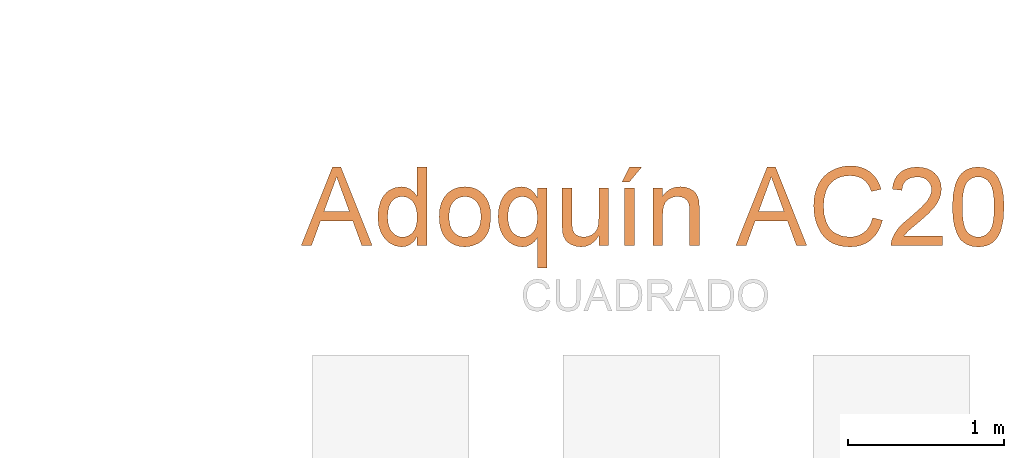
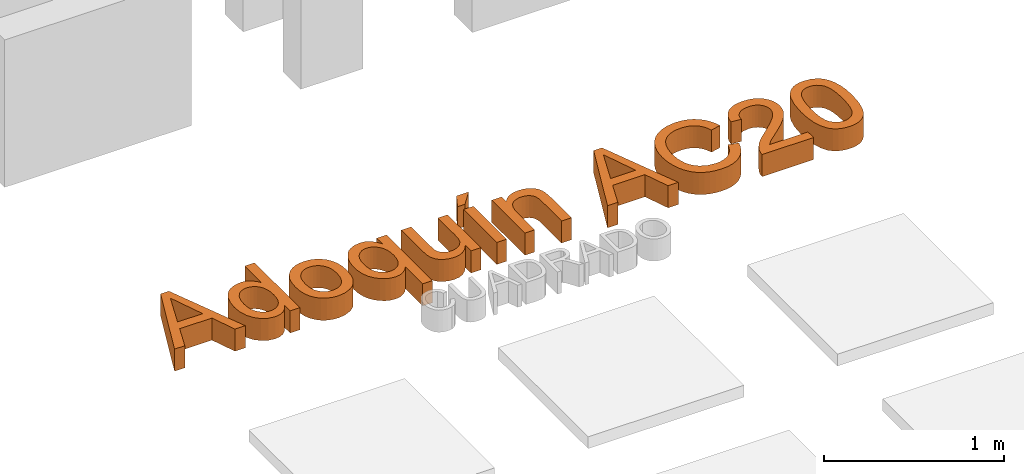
# One storey, part 12 of 19: 1 proxy.
"""IFC2X3 building model written with IfcOpenShell, lengths in metres."""

import ifcopenshell
import ifcopenshell.guid

model = None  # the IFC model being written
_history = None  # IfcOwnerHistory: only IFC2X3 demands one
_inside = {}  # id of a spatial element -> (the spatial element, [elements in it])
_under = {}  # id of a project, library or spatial element -> (it, [spatial elements below it])
_declared = {}  # id of a project -> (the project, [libraries it declares])
_typed = {}  # id of a type object -> (the type object, [elements of that type])
_made_of = {}  # id of a material, layer set ... -> (it, [elements and type objects made of it])


def new_model(schema):
    """Start an empty IFC model of exactly this schema.

    Asked for "IFC4X3", IfcOpenShell would pick the latest addendum, in which some entities
    have other attributes; the version numbers below select the first issue.
    IFC2X3 requires an IfcOwnerHistory on every rooted entity: one is made here for all.
    """
    global model, _history
    if schema == "IFC4X3":
        model = ifcopenshell.file(schema_version=(4, 3, 0, 0))
    else:
        model = ifcopenshell.file(schema=schema)
    _inside.clear()
    _under.clear()
    _declared.clear()
    _typed.clear()
    _made_of.clear()
    _history = None
    if model.schema == "IFC2X3":
        org = make("IfcOrganization", Name="unknown")
        user = make(
            "IfcPersonAndOrganization",
            ThePerson=make("IfcPerson", FamilyName="unknown"),
            TheOrganization=org,
        )
        app = make(
            "IfcApplication",
            ApplicationDeveloper=org,
            Version="unknown",
            ApplicationFullName="unknown",
            ApplicationIdentifier="unknown",
        )
        _history = make(
            "IfcOwnerHistory",
            OwningUser=user,
            OwningApplication=app,
            ChangeAction="ADDED",
            CreationDate=0,
        )
    return model


def make(cls, **values):
    """One entity of the class cls with the attributes given. An attribute that is None is left unset."""
    return model.create_entity(
        cls, **{name: value for name, value in values.items() if value is not None}
    )


def entity(cls, *values):
    """Any entity or typed value of the class cls, its attributes in the order of the schema. None: left unset."""
    e = model.create_entity(cls)
    for i, value in enumerate(values):
        if value is not None:
            e[i] = value
    return e


def rooted(cls, **values):
    """An entity with a GlobalId (a new one), such as an element, a storey or a relation."""
    return make(cls, GlobalId=ifcopenshell.guid.new(), OwnerHistory=_history, **values)


def si_unit(unit_type, name, prefix=None):
    """IfcSIUnit, for example si_unit("LENGTHUNIT", "METRE", prefix="MILLI")."""
    return make("IfcSIUnit", UnitType=unit_type, Prefix=prefix, Name=name)


def converted_unit(unit_type, name, factor, base, dimensions=None, offset=None):
    """IfcConversionBasedUnit, such as the inch: factor (a typed value) times the base unit."""
    return make(
        "IfcConversionBasedUnit"
        if offset is None
        else "IfcConversionBasedUnitWithOffset",
        ConversionOffset=offset,
        Dimensions=None
        if dimensions is None
        else entity("IfcDimensionalExponents", *dimensions),
        UnitType=unit_type,
        Name=name,
        ConversionFactor=make(
            "IfcMeasureWithUnit", ValueComponent=factor, UnitComponent=base
        ),
    )


def derived_unit(unit_type, elements):
    """IfcDerivedUnit: a product of units, each with its exponent."""
    return make(
        "IfcDerivedUnit",
        Elements=[
            make("IfcDerivedUnitElement", Unit=unit, Exponent=power)
            for unit, power in elements
        ],
        UnitType=unit_type,
    )


def assignment(units):
    """IfcUnitAssignment: the units of a project."""
    return None if units is None else make("IfcUnitAssignment", Units=units)


def point(xyz):
    """IfcCartesianPoint."""
    return None if xyz is None else make("IfcCartesianPoint", Coordinates=xyz)


def direction(xyz):
    """IfcDirection."""
    return None if xyz is None else make("IfcDirection", DirectionRatios=xyz)


def frame(location, z_axis=None, x_axis=None):
    """IfcAxis2Placement3D, a coordinate frame: its origin and axes. An axis left out is left unset."""
    return make(
        "IfcAxis2Placement3D",
        Location=point(location),
        Axis=direction(z_axis),
        RefDirection=direction(x_axis),
    )


def frame_2d(location, x_axis=None):
    """IfcAxis2Placement2D, a coordinate frame in the plane: its origin and x axis."""
    return make(
        "IfcAxis2Placement2D", Location=point(location), RefDirection=direction(x_axis)
    )


def origin():
    """The frame at (0, 0, 0) with its axes left unset."""
    return frame((0.0, 0.0, 0.0))


def origin_2d_with_axis():
    """The frame at (0, 0) in the plane with the x axis (1, 0) written out."""
    return frame_2d((0.0, 0.0), x_axis=(1.0, 0.0))


def place(relative_to, where):
    """IfcLocalPlacement: puts the frame where relative to a parent placement (None: the world)."""
    return make(
        "IfcLocalPlacement", PlacementRelTo=relative_to, RelativePlacement=where
    )


def context(
    kind, dimensions, precision=None, world=None, true_north=None, identifier=None
):
    """IfcGeometricRepresentationContext, for example the 3D "Model" context."""
    return make(
        "IfcGeometricRepresentationContext",
        ContextIdentifier=identifier,
        ContextType=kind,
        CoordinateSpaceDimension=dimensions,
        Precision=precision,
        WorldCoordinateSystem=world,
        TrueNorth=true_north,
    )


def subcontext(parent, identifier, kind, view, scale=None):
    """IfcGeometricRepresentationSubContext, for example "Body" below "Model"."""
    return make(
        "IfcGeometricRepresentationSubContext",
        ContextIdentifier=identifier,
        ContextType=kind,
        ParentContext=parent,
        TargetScale=scale,
        TargetView=view,
    )


def project(units=None, contexts=None):
    """IfcProject with its units and contexts."""
    return rooted(
        "IfcProject",
        Name="project",
        RepresentationContexts=contexts,
        UnitsInContext=assignment(units),
    )


def spatial(cls, under=None, at=None, **own):
    """A site, building, storey or space (cls), placed at a placement, below another one or the project."""
    s = rooted(cls, ObjectPlacement=at, **own)
    if under is not None:
        _under.setdefault(under.id(), (under, []))[1].append(s)
    return s


def polyline(points):
    """IfcPolyline through the points."""
    return make("IfcPolyline", Points=[point(p) for p in points])


def profile(cls, at=None, kind="AREA", **sizes):
    """A parametric profile (cls). Its sizes go by their IFC names, for example OverallWidth=200.0."""
    return make(cls, ProfileType=kind, Position=at, **sizes)


def rectangle(**sizes):
    """IfcRectangleProfileDef."""
    return profile("IfcRectangleProfileDef", **sizes)


def outline(outer, holes=None, kind="AREA"):
    """IfcArbitraryClosedProfileDef: a profile drawn as a closed curve; with holes, ...WithVoids."""
    if holes is None:
        return make("IfcArbitraryClosedProfileDef", ProfileType=kind, OuterCurve=outer)
    return make(
        "IfcArbitraryProfileDefWithVoids",
        ProfileType=kind,
        OuterCurve=outer,
        InnerCurves=holes,
    )


def extrude(swept, where, along, depth):
    """IfcExtrudedAreaSolid: the profile swept, set in the frame where, extruded along a direction by depth."""
    return make(
        "IfcExtrudedAreaSolid",
        SweptArea=swept,
        Position=where,
        ExtrudedDirection=direction(along),
        Depth=depth,
    )


def shape(context_of_items, identifier, shape_type, items):
    """IfcShapeRepresentation: the items that make up one representation, for example the "Body"."""
    return make(
        "IfcShapeRepresentation",
        ContextOfItems=context_of_items,
        RepresentationIdentifier=identifier,
        RepresentationType=shape_type,
        Items=items,
    )


def made_of(thing, what):
    """Note that an element or type object is made of a material, layer set ...; save() writes the relation."""
    if what is not None:
        _made_of.setdefault(what.id(), (what, []))[1].append(thing)
    return thing


def type_object(cls, material=None, **own):
    """A type object (cls), such as IfcWallType, which elements share."""
    return made_of(rooted(cls, **own), material)


def element(
    cls,
    number,
    at=None,
    inside=None,
    cuts=None,
    type_object=None,
    material=None,
    context=None,
    identifier="Body",
    shape_type=None,
    held_by="IfcProductDefinitionShape",
    body=None,
    shapes=None,
    **own,
):
    """One element of the class cls, such as IfcWall. Its Tag is "e" and its number.

    at: its placement. inside: the storey or other place that contains it. cuts: it is an
    opening in that element (IfcRelVoidsElement). A single representation is given by context,
    identifier, shape_type and body (its items); several are given by shapes. held_by: the class
    of the entity that holds the representations. save() writes the other relations.
    """
    e = rooted(cls, Tag="e%d" % number, ObjectPlacement=at, **own)
    if body is not None:
        shapes = [shape(context, identifier, shape_type, body)]
    if shapes is not None:
        e.Representation = make(held_by, Representations=shapes)
    if inside is not None:
        _inside.setdefault(inside.id(), (inside, []))[1].append(e)
    if cuts is not None:
        rooted(
            "IfcRelVoidsElement", RelatingBuildingElement=cuts, RelatedOpeningElement=e
        )
    if type_object is not None:
        _typed.setdefault(type_object.id(), (type_object, []))[1].append(e)
    return made_of(e, material)


def aggregate(whole, parts):
    """IfcRelAggregates: a whole, such as a stair, and the parts it consists of."""
    return rooted("IfcRelAggregates", RelatingObject=whole, RelatedObjects=parts)


def save(model, path):
    """Write the relations noted so far, then the file.

    IfcRelAggregates (storeys below a building ...), IfcRelContainedInSpatialStructure (elements
    in a storey), IfcRelDefinesByType, IfcRelAssociatesMaterial and IfcRelDeclares: one each for
    every whole, place, type object, material and project.
    """
    for whole, parts in _under.values():
        aggregate(whole, parts)
    for where, things in _inside.values():
        rooted(
            "IfcRelContainedInSpatialStructure",
            RelatedElements=things,
            RelatingStructure=where,
        )
    for kind, things in _typed.values():
        rooted("IfcRelDefinesByType", RelatedObjects=things, RelatingType=kind)
    for what, things in _made_of.values():
        rooted("IfcRelAssociatesMaterial", RelatedObjects=things, RelatingMaterial=what)
    for by, libraries in _declared.values():
        rooted("IfcRelDeclares", RelatingContext=by, RelatedDefinitions=libraries)
    model.write(path)


model = new_model("IFC2X3")

# Units and contexts
model_context = context("Model", 3, precision=1e-05, world=origin(), true_north=direction((6.12303176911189e-17, 1.0)))
body_context = subcontext(model_context, "Body", "Model", "MODEL_VIEW")
ifc_project = project(units=[si_unit("LENGTHUNIT", "METRE"), si_unit("AREAUNIT", "SQUARE_METRE"), si_unit("VOLUMEUNIT", "CUBIC_METRE"), converted_unit("PLANEANGLEUNIT", "DEGREE", entity("IfcRatioMeasure", 0.0174532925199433), si_unit("PLANEANGLEUNIT", "RADIAN"), dimensions=[0, 0, 0, 0, 0, 0, 0]), si_unit("MASSUNIT", "GRAM", prefix="KILO"), derived_unit("MASSDENSITYUNIT", [(si_unit("MASSUNIT", "GRAM", prefix="KILO"), 1), (si_unit("LENGTHUNIT", "METRE"), -3)]), derived_unit("MOMENTOFINERTIAUNIT", [(si_unit("LENGTHUNIT", "METRE"), 4)]), si_unit("TIMEUNIT", "SECOND"), si_unit("FREQUENCYUNIT", "HERTZ"), si_unit("THERMODYNAMICTEMPERATUREUNIT", "DEGREE_CELSIUS"), derived_unit("THERMALTRANSMITTANCEUNIT", [(si_unit("MASSUNIT", "GRAM", prefix="KILO"), 1), (si_unit("THERMODYNAMICTEMPERATUREUNIT", "KELVIN"), -1), (si_unit("TIMEUNIT", "SECOND"), -3)]), derived_unit("VOLUMETRICFLOWRATEUNIT", [(si_unit("LENGTHUNIT", "METRE"), 3), (si_unit("TIMEUNIT", "SECOND"), -1)]), si_unit("ELECTRICCURRENTUNIT", "AMPERE"), si_unit("ELECTRICVOLTAGEUNIT", "VOLT"), si_unit("POWERUNIT", "WATT"), si_unit("FORCEUNIT", "NEWTON", prefix="KILO"), si_unit("ILLUMINANCEUNIT", "LUX"), si_unit("LUMINOUSFLUXUNIT", "LUMEN"), si_unit("LUMINOUSINTENSITYUNIT", "CANDELA"), derived_unit("USERDEFINED", [(si_unit("MASSUNIT", "GRAM", prefix="KILO"), -1), (si_unit("LENGTHUNIT", "METRE"), -2), (si_unit("TIMEUNIT", "SECOND"), 3), (si_unit("LUMINOUSFLUXUNIT", "LUMEN"), 1)]), derived_unit("LINEARVELOCITYUNIT", [(si_unit("LENGTHUNIT", "METRE"), 1), (si_unit("TIMEUNIT", "SECOND"), -1)]), si_unit("PRESSUREUNIT", "PASCAL"), derived_unit("USERDEFINED", [(si_unit("LENGTHUNIT", "METRE"), -2), (si_unit("MASSUNIT", "GRAM", prefix="KILO"), 1), (si_unit("TIMEUNIT", "SECOND"), -2)]), derived_unit("LINEARFORCEUNIT", [(si_unit("MASSUNIT", "GRAM", prefix="KILO"), 1), (si_unit("LENGTHUNIT", "METRE"), 1), (si_unit("TIMEUNIT", "SECOND"), -2), (si_unit("LENGTHUNIT", "METRE"), -1)]), derived_unit("PLANARFORCEUNIT", [(si_unit("MASSUNIT", "GRAM", prefix="KILO"), 1), (si_unit("LENGTHUNIT", "METRE"), 1), (si_unit("TIMEUNIT", "SECOND"), -2), (si_unit("LENGTHUNIT", "METRE"), -2)])], contexts=[model_context])

# Site, building, storey
site_placement = place(None, origin())
site = spatial("IfcSite", under=ifc_project, at=site_placement, Name="Default", CompositionType="ELEMENT")
building_placement = place(site_placement, origin())
building = spatial("IfcBuilding", under=site, at=building_placement, CompositionType="ELEMENT")
storey_placement = place(building_placement, origin())
storey = spatial("IfcBuildingStorey", under=building, at=storey_placement, Name="Nivel 1", CompositionType="ELEMENT", Elevation=0.0)

# Proxy
building_element_proxy_type = type_object("IfcBuildingElementProxyType", Name="Texto de modelo:Título", PredefinedType="NOTDEFINED")
proxy_placement = place(storey_placement, origin())
element("IfcBuildingElementProxy", 1, at=proxy_placement, inside=storey, type_object=building_element_proxy_type, Name="Texto de modelo:Título", ObjectType="Texto de modelo:Título", context=body_context, shape_type="SweptSolid", body=[
    extrude(outline(polyline([(-0.227151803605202, -0.164811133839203), (-0.16093304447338, -0.164811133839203), (-0.1035434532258, -0.00784814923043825), (0.103451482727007, -0.00784814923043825), (0.160841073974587, -0.164811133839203), (0.227182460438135, -0.164811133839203), (0.026809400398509, 0.337470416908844), (-0.0266561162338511, 0.337470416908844), (-0.227151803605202, -0.164811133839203)]), holes=[polyline([(-0.0804895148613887, 0.0549370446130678), (-0.0313159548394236, 0.189213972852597), (-4.59852493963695e-05, 0.274685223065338), (0.0351480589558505, 0.178422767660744), (0.0805201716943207, 0.0549370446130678), (-0.0804895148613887, 0.0549370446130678)])]), frame((7.10570008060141, 3.07833883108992, 0.0)), (0.0, 0.0, 1.0), 0.15),
    extrude(outline(polyline([(0.111602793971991, -0.204691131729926), (0.174387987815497, -0.204691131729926), (0.174387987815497, 0.297590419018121), (0.111602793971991, 0.297590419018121), (0.111602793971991, 0.110461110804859), (0.0933006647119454, 0.135247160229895), (0.0702773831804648, 0.154913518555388), (0.0431154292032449, 0.167743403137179), (0.0123972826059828, 0.172020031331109), (-0.0297711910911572, 0.166041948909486), (-0.0677396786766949, 0.148107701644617), (-0.0845549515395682, 0.134840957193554), (-0.099132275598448, 0.118953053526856), (-0.111471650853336, 0.100443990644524), (-0.121573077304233, 0.0793137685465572), (-0.135046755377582, 0.0318876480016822), (-0.139537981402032, -0.0206275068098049), (-0.13466354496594, -0.073801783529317), (-0.120040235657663, -0.120507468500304), (-0.0965571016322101, -0.159181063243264), (-0.0651031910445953, -0.188259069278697), (-0.0279471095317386, -0.206469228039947), (0.0126425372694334, -0.212539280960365), (0.0433376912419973, -0.208346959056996), (0.0700627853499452, -0.195769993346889), (0.0928178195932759, -0.174808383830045), (0.111602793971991, -0.145462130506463), (0.111602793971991, -0.204691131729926)]), holes=[polyline([(-0.0767527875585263, -0.0203822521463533), (-0.075097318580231, 0.0109681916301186), (-0.0701309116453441, 0.0378197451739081), (-0.0618535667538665, 0.0601724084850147), (-0.0502652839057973, 0.0780261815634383), (-0.036201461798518, 0.0916799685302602), (-0.0204974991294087, 0.101432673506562), (-0.00315339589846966, 0.107284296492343), (0.0158308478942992, 0.109234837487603), (0.0352634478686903, 0.107203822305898), (0.0530942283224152, 0.101110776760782), (0.069323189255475, 0.090955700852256), (0.0839503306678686, 0.0767385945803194), (0.0960482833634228, 0.0581835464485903), (0.10468967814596, 0.0350146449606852), (0.109874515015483, 0.00723189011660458), (0.111602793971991, -0.0251647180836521), (0.109905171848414, -0.0547140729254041), (0.104812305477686, -0.0802090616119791), (0.0963241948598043, -0.101649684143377), (0.0844408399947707, -0.119035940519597), (0.0701279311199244, -0.132475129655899), (0.0543511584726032, -0.142074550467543), (0.0371105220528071, -0.14783420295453), (0.0184060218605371, -0.149754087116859), (-0.000210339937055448, -0.147742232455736), (-0.0175544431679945, -0.141706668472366), (-0.0336262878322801, -0.131647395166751), (-0.0484258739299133, -0.117564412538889), (-0.060818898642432, -0.0994193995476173), (-0.0696710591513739, -0.0771740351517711), (-0.0749823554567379, -0.0508283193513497), (-0.0767527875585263, -0.0203822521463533)])]), frame((7.50810507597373, 3.11821882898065, 0.0)), (0.0, 0.0, 1.0), 0.15),
    extrude(outline(polyline([(-0.0131957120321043, -0.170548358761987), (0.0307665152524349, -0.170548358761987), (0.0696520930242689, -0.16451238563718), (0.103461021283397, -0.152440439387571), (0.132193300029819, -0.134332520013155), (0.155411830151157, -0.111243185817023), (0.172679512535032, -0.0842269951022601), (0.183996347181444, -0.0532839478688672), (0.189362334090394, -0.0184140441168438), (0.186618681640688, 0.0261717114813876), (0.172415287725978, 0.0679068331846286), (0.161237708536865, 0.0869767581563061), (0.14763823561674, 0.103876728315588), (0.131616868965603, 0.118606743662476), (0.113173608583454, 0.13116680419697), (0.0915479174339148, 0.141494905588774), (0.0659792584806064, 0.149529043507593), (0.0030130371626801, 0.158715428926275), (-0.0385534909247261, 0.158529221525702), (-0.075758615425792, 0.15229201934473), (-0.108602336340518, 0.140003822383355), (-0.137084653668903, 0.121664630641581), (-0.160392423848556, 0.0984428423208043), (-0.177712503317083, 0.0715068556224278), (-0.189044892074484, 0.0408566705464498), (-0.194389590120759, 0.0064922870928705), (-0.1938749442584, -0.0249843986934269), (-0.18810582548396, -0.0543136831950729), (-0.177082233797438, -0.0814955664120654), (-0.160804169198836, -0.106530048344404), (-0.134450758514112, -0.132057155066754), (-0.101064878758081, -0.151235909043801), (-0.0606465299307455, -0.164066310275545), (-0.0131957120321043, -0.170548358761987)]), holes=[polyline([(-0.00925174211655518, -0.107887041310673), (-0.0395162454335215, -0.10410257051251), (-0.0654537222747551, -0.0969584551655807), (-0.0870641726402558, -0.0864546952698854), (-0.104347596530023, -0.0725912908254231), (-0.117399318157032, -0.0562452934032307), (-0.126314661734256, -0.0382937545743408), (-0.131093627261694, -0.0187366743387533), (-0.131736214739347, 0.0024259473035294), (-0.128372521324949, 0.0230712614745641), (-0.121092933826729, 0.0416882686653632), (-0.109897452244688, 0.0582769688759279), (-0.0947860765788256, 0.072837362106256), (-0.0759345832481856, 0.0844361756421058), (-0.0535187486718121, 0.0921401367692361), (-0.0275385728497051, 0.0959492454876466), (0.00200594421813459, 0.0958635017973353), (0.0329855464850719, 0.0920326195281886), (0.0594775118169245, 0.08485251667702), (0.0814818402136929, 0.0743231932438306), (0.0989985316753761, 0.0604446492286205), (0.112185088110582, 0.0441052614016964), (0.121199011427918, 0.0261934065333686), (0.126040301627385, 0.00670908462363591), (0.126708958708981, -0.0143477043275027), (0.123328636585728, -0.0352492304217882), (0.116038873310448, -0.0540230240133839), (0.104839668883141, -0.0706690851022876), (0.0897310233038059, -0.0851874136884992), (0.0707470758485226, -0.0966969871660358), (0.0479219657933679, -0.10431678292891), (0.0212556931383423, -0.108046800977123), (-0.00925174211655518, -0.107887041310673)])]), frame((7.93201947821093, 3.09583691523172, 0.0), z_axis=(0.0, 0.0, 1.0), x_axis=(0.0647659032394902, -0.997900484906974, 0.0)), (0.0, 0.0, 1.0), 0.15),
    extrude(outline(polyline([(0.113122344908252, -0.311998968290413), (0.175907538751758, -0.311998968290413), (0.175907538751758, 0.198130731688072), (0.113122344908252, 0.198130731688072), (0.113122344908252, 0.135590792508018), (0.0926742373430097, 0.166385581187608), (0.0687312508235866, 0.188381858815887), (0.0412933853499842, 0.201579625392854), (0.0103606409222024, 0.20597888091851), (-0.0296465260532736, 0.200307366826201), (-0.066281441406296, 0.183292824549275), (-0.0827211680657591, 0.170616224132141), (-0.097091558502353, 0.155272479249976), (-0.119624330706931, 0.11658355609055), (-0.133419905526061, 0.0697092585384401), (-0.138018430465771, 0.0171327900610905), (-0.135121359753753, -0.025997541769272), (-0.126430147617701, -0.0642764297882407), (-0.111944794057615, -0.097703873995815), (-0.0916652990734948, -0.126279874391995), (-0.0673774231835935, -0.149161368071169), (-0.0408669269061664, -0.165505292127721), (-0.0121338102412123, -0.175311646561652), (0.0188219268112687, -0.178580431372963), (0.0468422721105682, -0.174441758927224), (0.0732684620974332, -0.162025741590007), (0.0960464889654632, -0.143355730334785), (0.113122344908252, -0.12045507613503), (0.113122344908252, -0.311998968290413)]), holes=[polyline([(-0.0752332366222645, 0.0136992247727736), (-0.0735586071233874, 0.0447967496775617), (-0.0685347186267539, 0.0715026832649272), (-0.0601615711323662, 0.0938170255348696), (-0.048439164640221, 0.111739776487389), (-0.0343101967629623, 0.125500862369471), (-0.0187173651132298, 0.1353302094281), (-0.0016606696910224, 0.141227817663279), (0.0168598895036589, 0.143193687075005), (0.0356103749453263, 0.141082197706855), (0.0531115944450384, 0.134747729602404), (0.0693635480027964, 0.124190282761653), (0.0843662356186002, 0.109409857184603), (0.0969470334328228, 0.0904447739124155), (0.10593331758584, 0.067333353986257), (0.11132508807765, 0.0400755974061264), (0.113122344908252, 0.00867150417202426), (0.111417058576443, -0.0207743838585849), (0.106301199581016, -0.0462042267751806), (0.0977747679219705, -0.0676180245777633), (0.0858377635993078, -0.085015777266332), (0.0715401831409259, -0.0984817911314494), (0.0559320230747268, -0.108100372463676), (0.0390132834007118, -0.113871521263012), (0.0207839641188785, -0.115795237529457), (0.00174223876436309, -0.113771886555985), (-0.0158969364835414, -0.107701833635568), (-0.0321335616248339, -0.0975850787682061), (-0.0469676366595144, -0.0834216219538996), (-0.0593338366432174, -0.0652114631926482), (-0.0681668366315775, -0.0429546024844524), (-0.0734666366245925, -0.0166510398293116), (-0.0752332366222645, 0.0136992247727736)])]), frame((8.27570414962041, 3.08425997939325, 0.0)), (0.0, 0.0, 1.0), 0.15),
    extrude(outline(polyline([(0.0993741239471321, -0.102697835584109), (0.162159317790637, -0.102697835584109), (0.162159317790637, 0.266165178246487), (0.0993741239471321, 0.266165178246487), (0.0993741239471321, 0.0742534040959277), (0.0968296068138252, 0.0338323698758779), (0.0891960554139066, 0.00429451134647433), (0.0754464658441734, -0.0172725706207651), (0.0545538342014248, -0.0337812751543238), (0.0292159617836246, -0.0442659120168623), (0.0021306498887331, -0.0477607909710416), (-0.0234831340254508, -0.0443425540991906), (-0.0446516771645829, -0.0340878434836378), (-0.0603326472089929, -0.0178550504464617), (-0.0694837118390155, 0.00349743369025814), (-0.0732851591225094, 0.0675089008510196), (-0.0732851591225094, 0.266165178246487), (-0.136070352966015, 0.266165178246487), (-0.136070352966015, 0.0379557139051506), (-0.132391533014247, -0.0204148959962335), (-0.125018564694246, -0.045645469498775), (-0.113690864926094, -0.0666454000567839), (-0.0968602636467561, -0.0839358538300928), (-0.0729785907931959, -0.0980379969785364), (-0.0445137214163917, -0.107418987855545), (-0.0139335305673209, -0.110545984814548), (0.020003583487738, -0.106093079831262), (0.050200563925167, -0.0927343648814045), (0.0766574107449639, -0.070469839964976), (0.0993741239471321, -0.0392995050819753), (0.0993741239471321, -0.102697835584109)])), frame((8.68185983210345, 3.01622553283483, 0.0)), (0.0, 0.0, 1.0), 0.15),
    extrude(outline(polyline([(-0.0549370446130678, -0.0470888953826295), (-0.00784814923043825, -0.0470888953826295), (0.0706333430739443, 0.0470888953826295), (-0.00784814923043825, 0.0470888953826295), (-0.0549370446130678, -0.0470888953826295)])), frame((8.98528583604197, 3.36872035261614, 0.0)), (0.0, 0.0, 1.0), 0.15),
    extrude(outline(polyline([(-0.160354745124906, -0.269066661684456), (-0.0975695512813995, -0.269066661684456), (-0.0975695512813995, -0.0733534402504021), (-0.0957799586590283, -0.0416619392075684), (-0.0904111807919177, -0.0155039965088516), (-0.0814632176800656, 0.0051203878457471), (-0.068936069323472, 0.0202112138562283), (-0.0539410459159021, 0.0309947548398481), (-0.0375894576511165, 0.0386972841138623), (-0.0198813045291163, 0.0433188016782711), (-0.000816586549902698, 0.0448593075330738), (0.0223446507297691, 0.0421155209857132), (0.0422869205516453, 0.0338841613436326), (0.0578452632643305, 0.021054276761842), (0.0678547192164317, 0.00451491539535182), (0.0732809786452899, -0.0185696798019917), (0.075089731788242, -0.0510352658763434), (0.075089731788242, -0.269066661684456), (0.137874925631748, -0.269066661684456), (0.137874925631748, -0.0425739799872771), (0.134563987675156, 0.0181265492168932), (0.127160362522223, 0.0430352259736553), (0.115740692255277, 0.0642957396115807), (0.0989100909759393, 0.0818621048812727), (0.0752736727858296, 0.0956883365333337), (0.0469314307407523, 0.104655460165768), (0.015983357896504, 0.107644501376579), (-0.0189807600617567, 0.10393502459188), (-0.0495609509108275, 0.0928065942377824), (-0.0757572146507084, 0.0742592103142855), (-0.0975695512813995, 0.0482928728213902), (-0.0975695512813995, 0.099796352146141), (-0.160354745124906, 0.099796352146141), (-0.160354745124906, -0.269066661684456)])), frame((9.28690726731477, 3.18259435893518, 0.0)), (0.0, 0.0, 1.0), 0.15),
    extrude(outline(polyline([(-0.227151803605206, -0.164811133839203), (-0.160933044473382, -0.164811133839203), (-0.103543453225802, -0.00784814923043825), (0.103451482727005, -0.00784814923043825), (0.160841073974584, -0.164811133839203), (0.227182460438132, -0.164811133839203), (0.0268094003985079, 0.337470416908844), (-0.0266561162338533, 0.337470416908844), (-0.227151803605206, -0.164811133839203)]), holes=[polyline([(-0.0804895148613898, 0.0549370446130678), (-0.0313159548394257, 0.189213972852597), (-4.59852493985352e-05, 0.274685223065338), (0.0351480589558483, 0.178422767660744), (0.0805201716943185, 0.0549370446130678), (-0.0804895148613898, 0.0549370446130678)])]), frame((9.88394490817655, 3.07833883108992, 0.0)), (0.0, 0.0, 1.0), 0.15),
    extrude(rectangle(XDim=0.062785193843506, YDim=0.368863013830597, at=origin_2d_with_axis()), frame((8.97743768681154, 3.09795920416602, 0.0)), (0.0, 0.0, 1.0), 0.15),
    extrude(outline(polyline([(0.0277342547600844, -0.186752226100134), (0.0253192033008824, -0.25154544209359), (0.0662863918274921, -0.250788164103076), (0.103708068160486, -0.244672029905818), (0.137584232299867, -0.233197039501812), (0.167914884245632, -0.216363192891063), (0.194290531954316, -0.194632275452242), (0.216301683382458, -0.168466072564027), (0.233948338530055, -0.137864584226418), (0.247230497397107, -0.102827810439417), (0.256187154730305, -0.0655465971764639), (0.260121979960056, -0.0306797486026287), (0.259034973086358, 0.00177273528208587), (0.252926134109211, 0.03181085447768), (0.242107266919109, 0.0597295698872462), (0.226890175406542, 0.0858238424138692), (0.207274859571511, 0.110093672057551), (0.183261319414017, 0.132539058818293), (0.156028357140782, 0.152660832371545), (0.126754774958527, 0.169959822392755), (0.0954405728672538, 0.184436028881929), (0.0620857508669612, 0.196089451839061), (0.0252628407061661, 0.205121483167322), (-0.0102269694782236, 0.209877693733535), (-0.0443836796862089, 0.210358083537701), (-0.0772072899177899, 0.206562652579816), (-0.108133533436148, 0.198627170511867), (-0.136598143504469, 0.186687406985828), (-0.162601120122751, 0.170743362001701), (-0.186142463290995, 0.150795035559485), (-0.206839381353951, 0.127644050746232), (-0.224309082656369, 0.102092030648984), (-0.23855156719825, 0.074138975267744), (-0.249566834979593, 0.0437848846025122), (-0.257477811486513, 0.00867123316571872), (-0.259851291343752, -0.0249814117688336), (-0.25668727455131, -0.0571730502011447), (-0.247985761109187, -0.0879036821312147), (-0.234053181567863, -0.116618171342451), (-0.215195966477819, -0.14276138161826), (-0.191414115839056, -0.166333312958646), (-0.162707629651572, -0.187333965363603), (-0.13044203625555, -0.131434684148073), (-0.151281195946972, -0.114909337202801), (-0.168106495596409, -0.0975006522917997), (-0.18091793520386, -0.079208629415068), (-0.189715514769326, -0.0600332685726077), (-0.194744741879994, -0.0398054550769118), (-0.19625112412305, -0.0183560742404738), (-0.194234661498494, 0.00431487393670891), (-0.188695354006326, 0.0282073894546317), (-0.179044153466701, 0.0547214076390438), (-0.166862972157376, 0.077970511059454), (-0.152151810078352, 0.0979546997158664), (-0.134910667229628, 0.114673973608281), (-0.11572185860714, 0.128025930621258), (-0.0951676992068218, 0.137908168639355), (-0.0732481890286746, 0.144320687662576), (-0.0499633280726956, 0.147263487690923), (-0.00249488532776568, 0.145643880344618), (0.0440402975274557, 0.135953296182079), (0.0982756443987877, 0.114851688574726), (0.142284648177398, 0.086912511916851), (0.159956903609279, 0.0703870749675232), (0.174077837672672, 0.0521687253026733), (0.184647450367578, 0.0322574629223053), (0.191665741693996, 0.0106532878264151), (0.196203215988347, -0.0341872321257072), (0.188845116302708, -0.0789062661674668), (0.179185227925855, -0.104510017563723), (0.166417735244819, -0.126908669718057), (0.150542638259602, -0.146102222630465), (0.131559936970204, -0.162090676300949), (0.109668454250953, -0.174421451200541), (0.0850670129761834, -0.182641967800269), (0.0577556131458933, -0.186752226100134), (0.0277342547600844, -0.186752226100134)])), frame((10.3603136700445, 3.17197861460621, 0.0), z_axis=(0.0, 0.0, -1.0), x_axis=(-0.285543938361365, -0.958365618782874, 0.0)), (0.0, 0.0, -1.0), 0.15),
    extrude(outline(polyline([(-0.159344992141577, -0.262915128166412), (-0.159344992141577, -0.325700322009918), (0.170277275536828, -0.325700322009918), (0.168897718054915, -0.303596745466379), (0.163532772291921, -0.282412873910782), (0.148035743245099, -0.248583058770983), (0.125334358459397, -0.21576491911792), (0.0925162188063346, -0.181413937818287), (0.0466689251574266, -0.142985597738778), (-0.0210673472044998, -0.082806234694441), (-0.0616723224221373, -0.0383844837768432), (-0.0819518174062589, -0.00233204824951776), (-0.0870216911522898, 0.0153262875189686), (-0.0887116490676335, 0.0327393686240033), (-0.0871136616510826, 0.0491216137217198), (-0.0823196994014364, 0.0641779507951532), (-0.0743297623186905, 0.0779083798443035), (-0.0631438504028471, 0.0903129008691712), (-0.0493827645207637, 0.100586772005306), (-0.0336673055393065, 0.10792525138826), (-0.0159974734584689, 0.112328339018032), (0.00362673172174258, 0.113796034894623), (0.0427908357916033, 0.108063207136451), (0.0590964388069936, 0.100897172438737), (0.0732177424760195, 0.0908647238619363), (0.0846412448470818, 0.0783030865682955), (0.0928534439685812, 0.0635494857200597), (0.0978543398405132, 0.0466039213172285), (0.0996439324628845, 0.0274663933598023), (0.162429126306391, 0.0353145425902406), (0.157029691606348, 0.0677264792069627), (0.147208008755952, 0.0960457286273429), (0.1329640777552, 0.120272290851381), (0.114297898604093, 0.140406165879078), (0.0916386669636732, 0.156232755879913), (0.0654155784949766, 0.167537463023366), (0.0356286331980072, 0.174320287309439), (0.00227783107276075, 0.176581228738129), (-0.0313718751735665, 0.174067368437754), (-0.0613197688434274, 0.16652578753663), (-0.0875658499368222, 0.153956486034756), (-0.110110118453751, 0.136359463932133), (-0.128216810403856, 0.115037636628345), (-0.141150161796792, 0.0912939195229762), (-0.148910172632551, 0.0651283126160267), (-0.151496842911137, 0.0365408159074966), (-0.148707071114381, 0.00651244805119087), (-0.14033775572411, -0.0229947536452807), (-0.125484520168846, -0.0530077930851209), (-0.103242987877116, -0.0845536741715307), (-0.067788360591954, -0.122215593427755), (-0.0132958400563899, -0.170576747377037), (0.0589316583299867, -0.230970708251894), (0.0872585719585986, -0.262915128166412), (-0.159344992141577, -0.262915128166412)])), frame((10.8193707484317, 3.23922801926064, 0.0), z_axis=(0.0, 0.0, -1.0), x_axis=(-1.0, 0.0, 0.0)), (0.0, 0.0, -1.0), 0.15),
    extrude(outline(polyline([(-0.00893957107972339, -0.165659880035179), (0.0568706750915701, -0.165659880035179), (0.113684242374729, -0.15897085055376), (0.161501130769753, -0.145592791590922), (0.200321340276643, -0.125525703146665), (0.222304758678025, -0.103736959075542), (0.238503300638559, -0.0777445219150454), (0.248916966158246, -0.0475483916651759), (0.253545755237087, -0.013148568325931), (0.253089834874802, 0.0134788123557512), (0.249082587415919, 0.0378735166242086), (0.24152401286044, 0.0600355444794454), (0.230414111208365, 0.0799648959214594), (0.215698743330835, 0.097733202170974), (0.197323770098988, 0.113412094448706), (0.175289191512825, 0.127001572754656), (0.149595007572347, 0.138501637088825), (0.0863529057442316, 0.155229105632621), (0.00672254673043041, 0.1635900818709), (-0.0599396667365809, 0.163906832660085), (-0.111714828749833, 0.15780680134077), (-0.152787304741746, 0.146686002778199), (-0.187341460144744, 0.131940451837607), (-0.215242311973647, 0.11156878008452), (-0.236354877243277, 0.0835696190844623), (-0.250127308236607, 0.0495433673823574), (-0.256007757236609, 0.0110904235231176), (-0.255555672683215, -0.0153756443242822), (-0.251577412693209, -0.0396538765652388), (-0.24407297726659, -0.0617442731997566), (-0.233042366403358, -0.0816468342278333), (-0.218407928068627, -0.0994228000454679), (-0.200092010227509, -0.11513341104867), (-0.178094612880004, -0.128778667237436), (-0.15241573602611, -0.140358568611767), (-0.089027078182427, -0.157231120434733), (-0.00893957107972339, -0.165659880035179)]), holes=[polyline([(-0.00607879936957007, -0.102939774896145), (-0.0592098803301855, -0.0985095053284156), (-0.103096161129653, -0.0907132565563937), (-0.137737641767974, -0.0795510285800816), (-0.163134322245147, -0.065022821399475), (-0.177113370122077, -0.0495185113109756), (-0.186805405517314, -0.0322845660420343), (-0.192210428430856, -0.0133209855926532), (-0.193328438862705, 0.00737223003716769), (-0.189909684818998, 0.029077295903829), (-0.181832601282, 0.0483816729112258), (-0.16909718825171, 0.0652853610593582), (-0.151703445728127, 0.0797883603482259), (-0.12720375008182, 0.0910836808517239), (-0.0931504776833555, 0.0983643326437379), (-0.0495436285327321, 0.101630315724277), (0.00361679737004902, 0.100881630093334), (0.0579488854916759, 0.0964556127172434), (0.101763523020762, 0.0888469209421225), (0.135060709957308, 0.0780555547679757), (0.157840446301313, 0.0640815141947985), (0.173043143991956, 0.04776705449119), (0.183609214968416, 0.0299544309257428), (0.189538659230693, 0.010643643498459), (0.190831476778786, -0.0101653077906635), (0.187576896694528, -0.0307579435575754), (0.179864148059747, -0.0494197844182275), (0.167693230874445, -0.0661508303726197), (0.151064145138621, -0.0809510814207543), (0.127099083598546, -0.0927015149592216), (0.0929202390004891, -0.100283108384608), (0.0485276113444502, -0.103695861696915), (-0.00607879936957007, -0.102939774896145)])]), frame((11.207398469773, 3.15956368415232, 0.0), z_axis=(0.0, 0.0, 1.0), x_axis=(0.047515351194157, -0.99887050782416, 0.0)), (0.0, 0.0, 1.0), 0.15),
])

save(model, "model.ifc")
